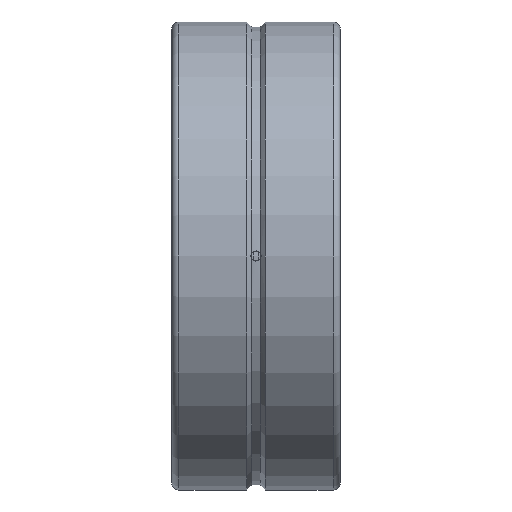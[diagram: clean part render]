
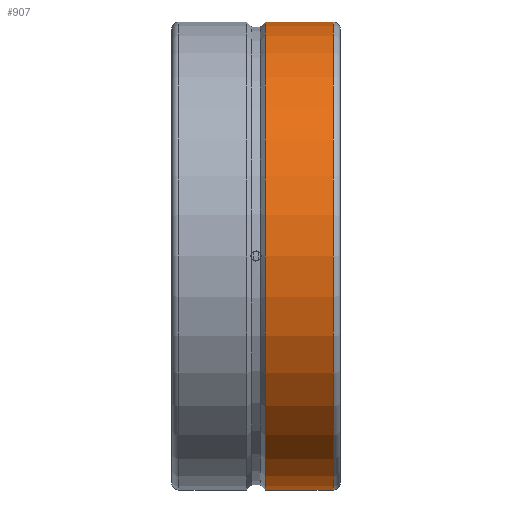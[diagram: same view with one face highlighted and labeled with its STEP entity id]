
A CAD part, front view. The second image highlights one B-rep face of the part: STEP entity #907.
In plain terms, the highlighted cylindrical face has radius 50 mm (diameter 100 mm), a full revolution.
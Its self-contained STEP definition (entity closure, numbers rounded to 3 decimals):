
#210=CIRCLE('',#983,50.);
#217=CIRCLE('',#994,50.);
#289=FACE_BOUND('',#427,.T.);
#349=FACE_OUTER_BOUND('',#426,.T.);
#426=EDGE_LOOP('',(#766));
#427=EDGE_LOOP('',(#767));
#564=VERTEX_POINT('',#1886);
#571=VERTEX_POINT('',#1937);
#646=EDGE_CURVE('',#564,#564,#210,.T.);
#655=EDGE_CURVE('',#571,#571,#217,.T.);
#766=ORIENTED_EDGE('',*,*,#646,.T.);
#767=ORIENTED_EDGE('',*,*,#655,.F.);
#886=CYLINDRICAL_SURFACE('',#995,50.);
#907=ADVANCED_FACE('',(#349,#289),#886,.T.);
#983=AXIS2_PLACEMENT_3D('',#1887,#1164,#1165);
#994=AXIS2_PLACEMENT_3D('',#1938,#1186,#1187);
#995=AXIS2_PLACEMENT_3D('',#1939,#1188,#1189);
#1164=DIRECTION('center_axis',(1.,0.,0.));
#1165=DIRECTION('ref_axis',(0.,0.,-1.));
#1186=DIRECTION('center_axis',(1.,0.,0.));
#1187=DIRECTION('ref_axis',(0.,-1.,0.));
#1188=DIRECTION('center_axis',(1.,0.,0.));
#1189=DIRECTION('ref_axis',(0.,1.,0.));
#1886=CARTESIAN_POINT('',(1.98,50.,0.));
#1887=CARTESIAN_POINT('Origin',(1.98,0.,0.));
#1937=CARTESIAN_POINT('',(16.5,50.,0.));
#1938=CARTESIAN_POINT('Origin',(16.5,0.,0.));
#1939=CARTESIAN_POINT('Origin',(9.99,0.,0.));
